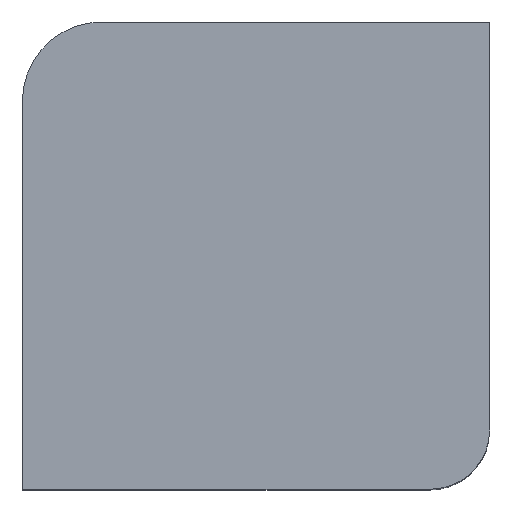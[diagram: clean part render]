
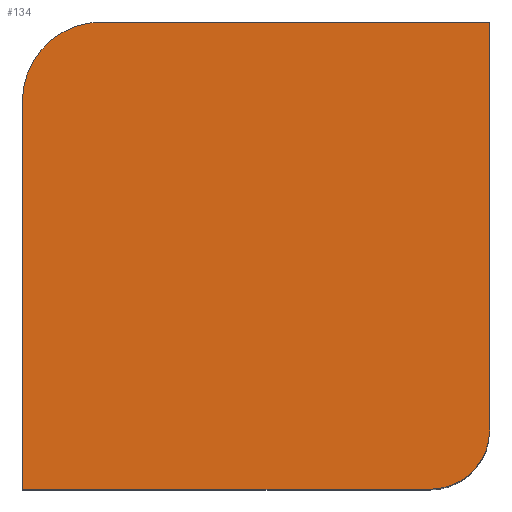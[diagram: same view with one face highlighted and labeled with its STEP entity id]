
A CAD part, top view. The second image highlights one B-rep face of the part: STEP entity #134.
In plain terms, the highlighted planar face has unit normal (0, 0, 1).
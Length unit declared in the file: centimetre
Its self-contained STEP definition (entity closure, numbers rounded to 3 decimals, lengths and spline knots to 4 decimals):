
#8 = EDGE_CURVE ( 'NONE', #360, #105, #521, .T. ) ;
#9 = ORIENTED_EDGE ( 'NONE', *, *, #19, .T. ) ;
#19 = EDGE_CURVE ( 'NONE', #98, #318, #186, .T. ) ;
#26 = AXIS2_PLACEMENT_3D ( 'NONE', #171, #503, #288 ) ;
#29 = CARTESIAN_POINT ( 'NONE',  ( 0., 0., 1000. ) ) ;
#57 = CARTESIAN_POINT ( 'NONE',  ( 0., 1000., 1000. ) ) ;
#67 = CARTESIAN_POINT ( 'NONE',  ( 169.251, 1000., 1000. ) ) ;
#69 = VECTOR ( 'NONE', #237, 100. ) ;
#89 = CARTESIAN_POINT ( 'NONE',  ( 169.251, 830.749, 1000. ) ) ;
#98 = VERTEX_POINT ( 'NONE', #198 ) ;
#105 = VERTEX_POINT ( 'NONE', #499 ) ;
#108 = VERTEX_POINT ( 'NONE', #216 ) ;
#134 = ADVANCED_FACE ( 'NONE', ( #403 ), #532, .T. ) ;
#154 = DIRECTION ( 'NONE',  ( 0., -1., 0. ) ) ;
#165 = VECTOR ( 'NONE', #154, 100. ) ;
#166 = DIRECTION ( 'NONE',  ( 1., 0., 0. ) ) ;
#169 = CARTESIAN_POINT ( 'NONE',  ( 0., 1000., 1000. ) ) ;
#171 = CARTESIAN_POINT ( 'NONE',  ( 873.2907, 126.7093, 1000. ) ) ;
#172 = DIRECTION ( 'NONE',  ( 1., 0., 0. ) ) ;
#178 = AXIS2_PLACEMENT_3D ( 'NONE', #89, #418, #416 ) ;
#186 = LINE ( 'NONE', #57, #165 ) ;
#198 = CARTESIAN_POINT ( 'NONE',  ( 0., 830.749, 1000. ) ) ;
#208 = ORIENTED_EDGE ( 'NONE', *, *, #8, .T. ) ;
#214 = LINE ( 'NONE', #376, #426 ) ;
#216 = CARTESIAN_POINT ( 'NONE',  ( 873.2907, 0., 1000. ) ) ;
#237 = DIRECTION ( 'NONE',  ( 0., 1., 0. ) ) ;
#258 = EDGE_CURVE ( 'NONE', #318, #108, #214, .T. ) ;
#261 = ORIENTED_EDGE ( 'NONE', *, *, #258, .T. ) ;
#273 = EDGE_CURVE ( 'NONE', #428, #98, #477, .T. ) ;
#285 = LINE ( 'NONE', #169, #422 ) ;
#288 = DIRECTION ( 'NONE',  ( 1., 0., 0. ) ) ;
#297 = CARTESIAN_POINT ( 'NONE',  ( 1000., 126.7093, 1000. ) ) ;
#300 = EDGE_CURVE ( 'NONE', #108, #360, #342, .T. ) ;
#318 = VERTEX_POINT ( 'NONE', #498 ) ;
#334 = CARTESIAN_POINT ( 'NONE',  ( 1000., 1000., 1000. ) ) ;
#342 = CIRCLE ( 'NONE', #26, 126.7093 ) ;
#347 = ORIENTED_EDGE ( 'NONE', *, *, #273, .T. ) ;
#348 = AXIS2_PLACEMENT_3D ( 'NONE', #29, #408, #166 ) ;
#360 = VERTEX_POINT ( 'NONE', #297 ) ;
#376 = CARTESIAN_POINT ( 'NONE',  ( 0., 0., 1000. ) ) ;
#403 = FACE_OUTER_BOUND ( 'NONE', #406, .T. ) ;
#406 = EDGE_LOOP ( 'NONE', ( #464, #347, #9, #261, #519, #208 ) ) ;
#408 = DIRECTION ( 'NONE',  ( 0., 0., 1. ) ) ;
#416 = DIRECTION ( 'NONE',  ( 1., 0., 0. ) ) ;
#418 = DIRECTION ( 'NONE',  ( 0., 0., 1. ) ) ;
#422 = VECTOR ( 'NONE', #444, 100. ) ;
#426 = VECTOR ( 'NONE', #172, 100. ) ;
#428 = VERTEX_POINT ( 'NONE', #67 ) ;
#444 = DIRECTION ( 'NONE',  ( -1., 0., 0. ) ) ;
#464 = ORIENTED_EDGE ( 'NONE', *, *, #483, .T. ) ;
#477 = CIRCLE ( 'NONE', #178, 169.251 ) ;
#483 = EDGE_CURVE ( 'NONE', #105, #428, #285, .T. ) ;
#498 = CARTESIAN_POINT ( 'NONE',  ( 0., 0., 1000. ) ) ;
#499 = CARTESIAN_POINT ( 'NONE',  ( 1000., 1000., 1000. ) ) ;
#503 = DIRECTION ( 'NONE',  ( 0., 0., 1. ) ) ;
#519 = ORIENTED_EDGE ( 'NONE', *, *, #300, .T. ) ;
#521 = LINE ( 'NONE', #334, #69 ) ;
#532 = PLANE ( 'NONE',  #348 ) ;
